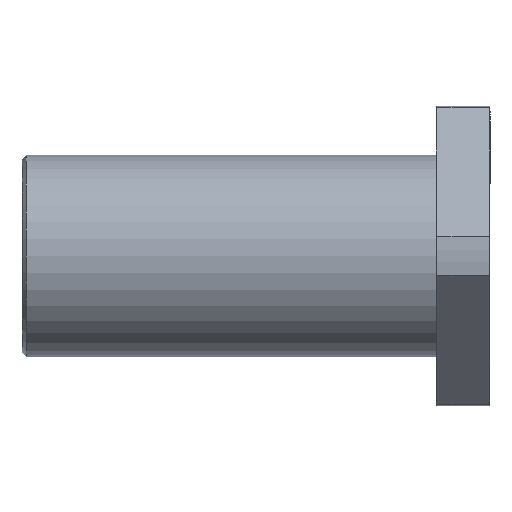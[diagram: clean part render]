
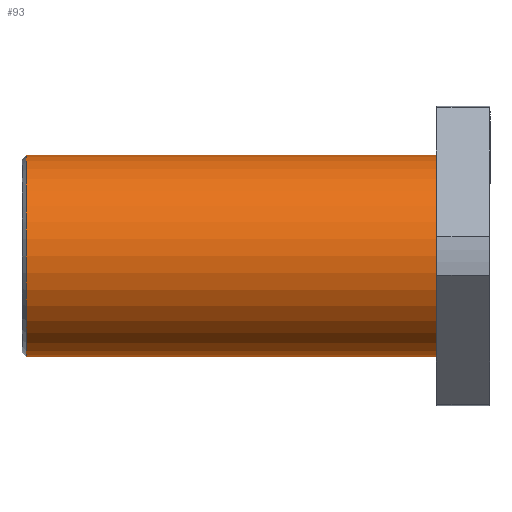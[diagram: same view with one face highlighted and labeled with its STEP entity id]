
A CAD part, front view. The second image highlights one B-rep face of the part: STEP entity #93.
In plain terms, the highlighted cylindrical face has radius 45 mm (diameter 90 mm), a full revolution.
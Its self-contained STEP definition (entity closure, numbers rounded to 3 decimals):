
#93=ADVANCED_FACE('',(#169,#170),#171,.T.);
#169=FACE_OUTER_BOUND('',#263,.T.);
#170=FACE_OUTER_BOUND('',#264,.T.);
#171=CYLINDRICAL_SURFACE('',#265,45.0);
#263=EDGE_LOOP('',(#424));
#264=EDGE_LOOP('',(#425));
#265=AXIS2_PLACEMENT_3D('',#426,#427,#428);
#424=ORIENTED_EDGE('',*,*,#562,.F.);
#425=ORIENTED_EDGE('',*,*,#587,.T.);
#426=CARTESIAN_POINT('',(-24.0,0.0,0.0));
#427=DIRECTION('',(1.0,-0.0,-0.0));
#428=DIRECTION('',(0.0,0.0,-1.0));
#562=EDGE_CURVE('',#654,#654,#655,.T.);
#587=EDGE_CURVE('',#700,#700,#701,.T.);
#654=VERTEX_POINT('',#811);
#655=CIRCLE('',#812,45.0);
#700=VERTEX_POINT('',#861);
#701=CIRCLE('',#862,45.0);
#811=CARTESIAN_POINT('',(-24.0,0.0,-45.0));
#812=AXIS2_PLACEMENT_3D('',#944,#945,#946);
#861=CARTESIAN_POINT('',(-207.0,0.0,-45.0));
#862=AXIS2_PLACEMENT_3D('',#1011,#1012,#1013);
#944=CARTESIAN_POINT('',(-24.0,0.0,0.0));
#945=DIRECTION('',(1.0,0.0,0.0));
#946=DIRECTION('',(0.0,0.0,-1.0));
#1011=CARTESIAN_POINT('',(-207.0,0.0,0.0));
#1012=DIRECTION('',(1.0,0.0,0.0));
#1013=DIRECTION('',(0.0,0.0,-1.0));
